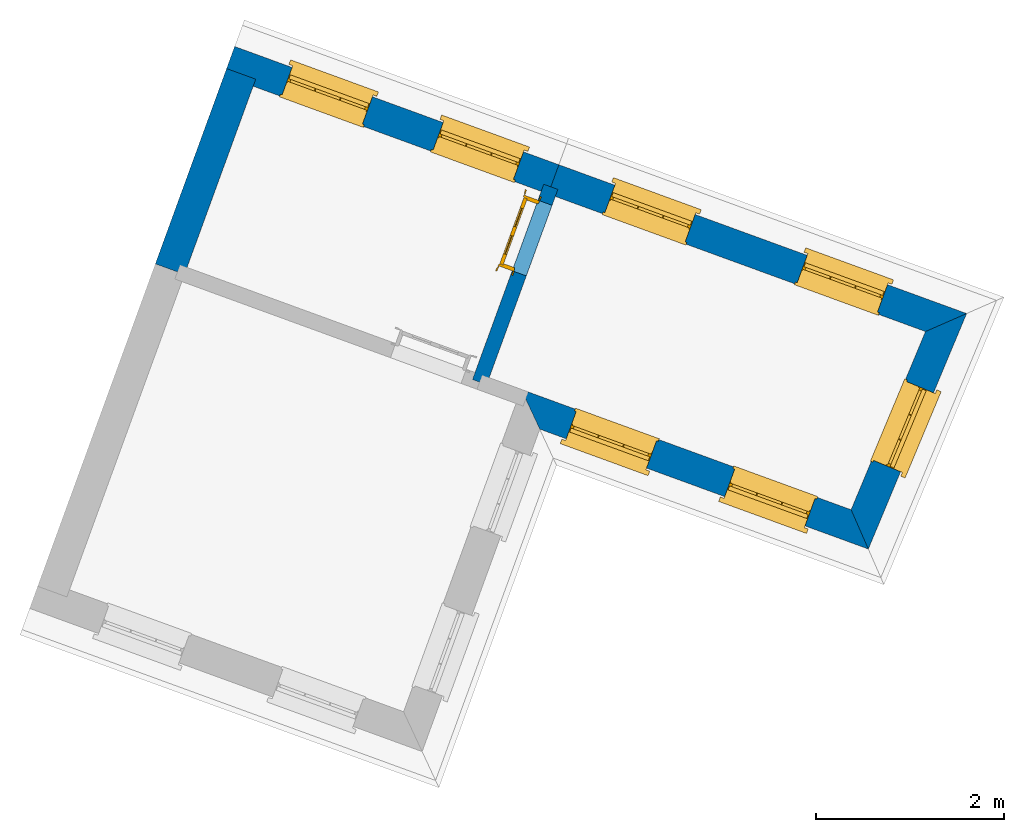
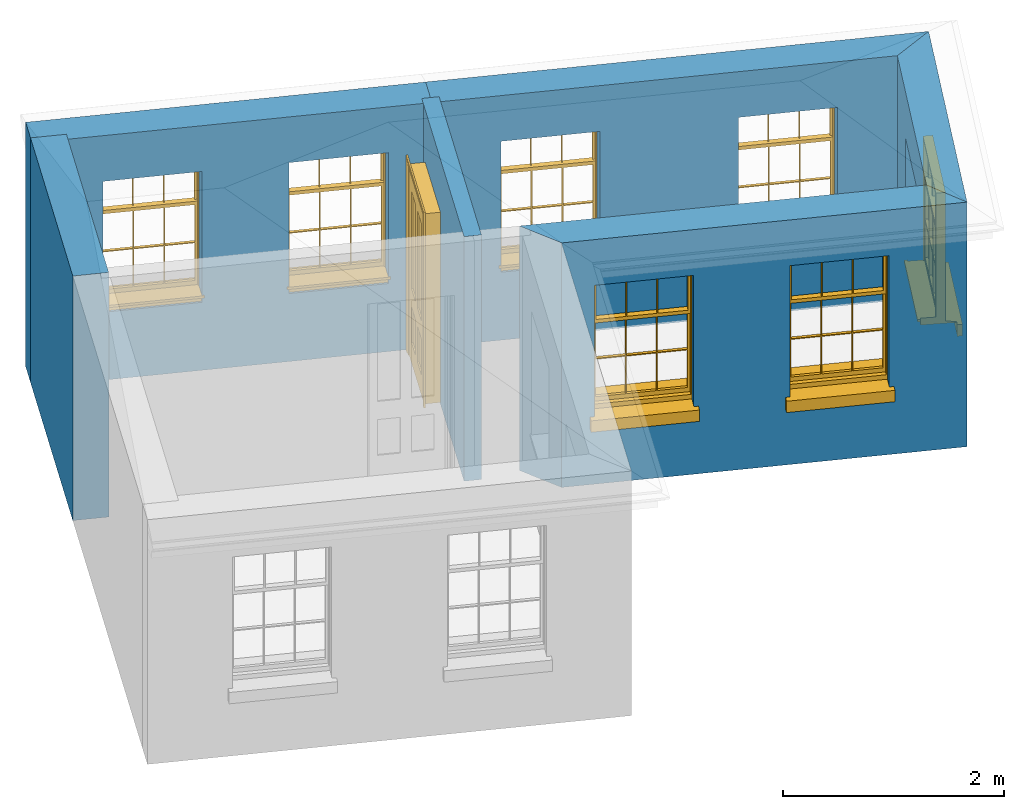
# One storey, part 2 of 3: 7 windows, 6 walls, 1 door, 8 openings.
"""IFC4 building model written with IfcOpenShell, lengths in metres."""

from ifc_helpers import new_model, si_unit, frame, origin, origin_with_axes, place, context, subcontext, project, spatial, polyline, outline, extrude, faceted_brep, source, transform, mapped, material, layer, layer_set, layer_usage, type_object, type_shapes, element, fill, save


model = new_model("IFC4")

# Units and contexts
model_context = context("Model", 3, world=origin_with_axes())
body_context = subcontext(model_context, "Body", "Model", "MODEL_VIEW")
ifc_project = project(units=[si_unit("PLANEANGLEUNIT", "RADIAN"), si_unit("MASSUNIT", "GRAM", prefix="KILO"), si_unit("FORCEUNIT", "NEWTON", prefix="KILO"), si_unit("LENGTHUNIT", "METRE"), si_unit("AREAUNIT", "SQUARE_METRE"), si_unit("VOLUMEUNIT", "CUBIC_METRE")], contexts=[model_context, model_context])

# Sites, building, storey
site_1_placement = place(None, origin_with_axes())
site_1 = spatial("IfcSite", under=ifc_project, at=site_1_placement, Name="Tamar")
site_2_placement = place(site_1_placement, origin_with_axes())
site_2 = spatial("IfcSite", under=site_1, at=site_2_placement, Name="Site plot-13", CompositionType="ELEMENT")
building_placement = place(None, origin_with_axes())
building = spatial("IfcBuilding", under=site_2, at=building_placement, Name="Building plot-13", CompositionType="ELEMENT")
storey_placement = place(None, frame((0.0, 0.0, 31.85), z_axis=(0.0, 0.0, 1.0), x_axis=(1.0, 0.0, 0.0)))
storey = spatial("IfcBuildingStorey", under=building, at=storey_placement, Name="plot-13 2", CompositionType="ELEMENT", Elevation=31.85)

# Wall, openings, windows
ifc_material_1 = material(Name="Masonry")
ifc_layer_1 = layer(ifc_material_1, 0.33, ventilated=False)
ifc_layer_set_1 = layer_set([ifc_layer_1], Name="exterior_0.08_0.25")
ifc_layer_usage_1 = layer_usage(ifc_layer_set_1, "AXIS2", "POSITIVE", -0.25)
wall_type_1 = type_object("IfcWallType", Name="exterior_0.08_0.25", PredefinedType="SOLIDWALL", material=ifc_layer_set_1)
wall_1_placement = place(storey_placement, frame((246.239933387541, 300.742010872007, 0.0), z_axis=(0.0, 0.0, 1.0), x_axis=(0.939432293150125, -0.342734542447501, 0.0)))
wall_1 = element("IfcWall", 1, at=wall_1_placement, inside=storey, type_object=wall_type_1, material=ifc_layer_usage_1, Name="exterior", context=body_context, shape_type="SweptSolid", body=[
    extrude(outline(polyline([(-0.0800000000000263, 0.0799999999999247), (0.249999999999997, -0.250000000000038), (3.97164468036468, -0.249999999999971), (3.65634232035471, 0.0799999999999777), (-0.0800000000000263, 0.0799999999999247)])), origin_with_axes(), (0.0, 0.0, 1.0), 2.7),
])
opening_1_placement = place(wall_1_placement, frame((0.55, 0.0, 0.75)))
opening_1 = element("IfcOpeningElement", 2, at=opening_1_placement, cuts=wall_1, Name="My Opening", ObjectType="Opening", context=body_context, shape_type="SweptSolid", body=[
    extrude(outline(polyline([(0.0, -0.269999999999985), (0.910000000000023, -0.269999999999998), (0.910000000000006, 1.09999999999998), (-1.64313007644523e-14, 1.1), (0.0, -0.269999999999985)])), origin_with_axes(), (0.0, 0.0, 1.0), 1.445),
])
opening_2_placement = place(wall_1_placement, frame((2.34458444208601, 0.0, 0.75)))
opening_2 = element("IfcOpeningElement", 3, at=opening_2_placement, cuts=wall_1, Name="My Opening", ObjectType="Opening", context=body_context, shape_type="SweptSolid", body=[
    extrude(outline(polyline([(0.0, -0.26999999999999), (0.909999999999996, -0.270000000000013), (0.909999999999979, 1.09999999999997), (-1.64313007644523e-14, 1.09999999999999), (0.0, -0.26999999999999)])), origin_with_axes(), (0.0, 0.0, 1.0), 1.445),
])
window_type = type_object("IfcWindowType", Name="sash_shorter", PartitioningType="DOUBLE_PANEL_HORIZONTAL", PredefinedType="NOTDEFINED")
shared_shape_1 = source(origin(), body_context, "Body", "Brep", [
    faceted_brep([(0.876875, 0.145, 0.999097), (0.876875, 0.145, 1.411875), (0.9, 0.145, 1.435), (0.033125, 0.145, 1.411875), (0.033125, 0.145, 0.999097), (0.01, 0.145, 1.435), (0.033125, 0.115, 1.411875), (0.01, 0.115, 1.435), (0.033125, 0.115, 0.999097), (0.876875, 0.115, 1.411875), (0.876875, 0.115, 0.999097), (0.9, 0.115, 1.435), (0.033125, 0.145, 0.960972), (0.01, 0.145, 0.960972), (0.033125, 0.145, 0.548195), (0.876875, 0.145, 0.960972), (0.876875, 0.145, 0.548195), (0.9, 0.145, 0.960972), (0.876875, 0.145, 0.538195), (0.876875, 0.145, 0.125417), (0.9, 0.145, 0.077167), (0.033125, 0.145, 0.125417), (0.033125, 0.145, 0.538195), (0.01, 0.145, 0.077167), (0.9, 0.115, 0.960972), (0.01, 0.115, 0.960972), (-0.0425, 0.0, 0.01), (-0.0425, -0.05, 0.001667), (0.0, 0.0, 0.01), (0.9525, 0.0, 0.01), (0.91, 0.0, 0.01), (0.9525, -0.05, 0.001667), (-0.02, 0.33, 0.077167), (0.0, 0.33, 0.077167), (-0.02, 0.36, 0.077167), (0.0, 0.19, 0.077167), (0.01, 0.19, 0.077167), (0.91, 0.19, 0.077167), (0.91, 0.33, 0.077167), (0.9, 0.19, 0.077167), (0.93, 0.33, 0.077167), (0.93, 0.36, 0.077167), (0.01, 0.145, 0.999097), (0.01, 0.175, 0.999097), (0.9, 0.145, 0.999097), (0.9, 0.175, 0.999097), (0.876875, 0.175, 0.125417), (0.876875, 0.175, 0.538195), (0.9, 0.175, 0.077167), (0.876875, 0.175, 0.548195), (0.876875, 0.175, 0.960972), (0.033125, 0.175, 0.125417), (0.01, 0.175, 0.077167), (0.033125, 0.175, 0.538195), (0.033125, 0.175, 0.960972), (0.033125, 0.175, 0.548195), (-0.02, 0.33, 0.052167), (-0.02, 0.36, 0.052167), (0.93, 0.36, 0.052167), (0.93, 0.33, 0.052167), (0.91, 0.33, 0.052167), (0.0, 0.33, 0.052167), (0.91, 0.1, 0.026667), (0.0, 0.1, 0.026667), (-0.0425, -0.05, -0.123333), (0.9525, -0.05, -0.123333), (-0.0425, 0.0, -0.123333), (0.9525, 0.0, -0.123333), (0.01, 0.19, 1.435), (0.9, 0.19, 1.435), (0.0, 0.19, 1.445), (0.91, 0.19, 1.445), (0.01, 0.1, 0.077167), (0.9, 0.1, 0.077167), (0.592292, 0.145, 0.125417), (0.592292, 0.175, 0.125417), (0.317708, 0.175, 0.125417), (0.317708, 0.145, 0.125417), (0.592292, 0.145, 0.548195), (0.317708, 0.145, 0.548195), (0.317708, 0.145, 0.538195), (0.592292, 0.145, 0.538195), (0.592292, 0.175, 0.548195), (0.317708, 0.175, 0.548195), (0.602292, 0.175, 0.548195), (0.602292, 0.145, 0.548195), (0.317708, 0.175, 0.538195), (0.307708, 0.175, 0.125417), (0.307708, 0.175, 0.538195), (0.602292, 0.175, 0.538195), (0.602292, 0.175, 0.125417), (0.592292, 0.175, 0.538195), (0.307708, 0.175, 0.548195), (0.317708, 0.175, 0.960972), (0.307708, 0.175, 0.960972), (0.602292, 0.175, 0.960972), (0.592292, 0.175, 0.960972), (0.307708, 0.145, 0.538195), (0.307708, 0.145, 0.125417), (0.307708, 0.145, 0.548195), (0.307708, 0.145, 0.960972), (0.592292, 0.145, 0.960972), (0.317708, 0.145, 0.960972), (0.602292, 0.145, 0.960972), (0.602292, 0.145, 0.538195), (0.602292, 0.145, 0.125417), (0.317708, 0.115, 1.411875), (0.307708, 0.115, 1.411875), (0.307708, 0.115, 0.999097), (0.317708, 0.115, 0.999097), (0.602292, 0.115, 1.411875), (0.592292, 0.115, 1.411875), (0.592292, 0.115, 0.999097), (0.602292, 0.115, 0.999097), (0.317708, 0.145, 0.999097), (0.307708, 0.145, 0.999097), (0.307708, 0.145, 1.411875), (0.317708, 0.145, 1.411875), (0.602292, 0.145, 0.999097), (0.592292, 0.145, 0.999097), (0.592292, 0.145, 1.411875), (0.602292, 0.145, 1.411875), (0.91, 0.1, 1.445), (0.9, 0.1, 1.435), (0.01, 0.1, 1.435), (0.0, 0.1, 1.445), (0.91, 0.0, 0.0), (0.0, 0.0, 0.0), (0.91, 0.33, 0.0), (0.0, 0.33, 0.0)], [[[0, 1, 2]], [[3, 4, 5]], [[6, 7, 8]], [[9, 10, 11]], [[12, 13, 14]], [[15, 16, 17]], [[18, 19, 20]], [[21, 22, 23]], [[24, 15, 17]], [[13, 12, 25]], [[26, 27, 28]], [[29, 30, 31]], [[32, 33, 34]], [[35, 36, 33]], [[37, 38, 39]], [[40, 41, 38]], [[42, 4, 43]], [[44, 45, 0]], [[46, 47, 48]], [[49, 50, 45]], [[51, 52, 53]], [[54, 55, 43]], [[38, 33, 36, 39]], [[41, 34, 33, 38]], [[56, 32, 34, 57]], [[57, 34, 41, 58]], [[58, 41, 40, 59]], [[57, 58, 60, 61]], [[52, 48, 39, 36]], [[62, 63, 28, 30]], [[27, 31, 30, 28]], [[27, 64, 65, 31]], [[66, 67, 65, 64]], [[2, 5, 68, 69]], [[68, 70, 71, 69]], [[20, 23, 72, 73]], [[73, 72, 63, 62]], [[74, 75, 76, 77]], [[78, 79, 80, 81]], [[78, 82, 83, 79]], [[16, 49, 84, 85]], [[86, 76, 87, 88]], [[89, 90, 75, 91]], [[92, 88, 53, 55]], [[82, 91, 86, 83]], [[93, 83, 92, 94]], [[95, 84, 82, 96]], [[89, 84, 49, 47]], [[97, 88, 87, 98]], [[22, 53, 88, 97]], [[81, 91, 75, 74]], [[80, 86, 91, 81]], [[77, 76, 86, 80]], [[99, 92, 55, 14]], [[100, 94, 92, 99]], [[101, 96, 82, 78]], [[79, 83, 93, 102]], [[85, 84, 95, 103]], [[104, 89, 47, 18]], [[105, 90, 89, 104]], [[104, 18, 16, 85]], [[80, 97, 98, 77]], [[104, 81, 74, 105]], [[103, 101, 78, 85]], [[99, 14, 22, 97]], [[102, 100, 99, 79]], [[106, 107, 108, 109]], [[110, 111, 112, 113]], [[114, 115, 116, 117]], [[118, 119, 120, 121]], [[107, 116, 115, 108]], [[111, 120, 119, 112]], [[109, 114, 117, 106]], [[113, 118, 121, 110]], [[85, 78, 81, 104]], [[84, 89, 91, 82]], [[83, 86, 88, 92]], [[79, 99, 97, 80]], [[109, 112, 119, 114]], [[102, 93, 96, 101]], [[106, 117, 120, 111]], [[98, 87, 51, 21]], [[6, 3, 116, 107]], [[110, 121, 1, 9]], [[19, 46, 90, 105]], [[26, 66, 64, 27]], [[29, 31, 65, 67]], [[25, 24, 112, 109]], [[11, 7, 106, 111]], [[75, 48, 52, 76]], [[43, 45, 96, 93]], [[45, 43, 114, 119]], [[5, 2, 120, 117]], [[24, 25, 102, 101]], [[42, 5, 4]], [[2, 44, 0]], [[49, 45, 48, 47]], [[52, 43, 55, 53]], [[14, 13, 23, 22]], [[20, 17, 16, 18]], [[24, 11, 10]], [[25, 8, 7]], [[8, 4, 3, 6]], [[9, 1, 0, 10]], [[15, 50, 49, 16]], [[18, 47, 46, 19]], [[21, 51, 53, 22]], [[14, 55, 54, 12]], [[44, 2, 69, 45]], [[68, 5, 42, 43]], [[36, 35, 70, 68]], [[39, 69, 71, 37]], [[62, 122, 123, 73]], [[63, 72, 124, 125]], [[8, 108, 115, 4]], [[113, 10, 0, 118]], [[94, 100, 12, 54]], [[17, 20, 73, 24]], [[72, 23, 13, 25]], [[52, 36, 68, 43]], [[69, 39, 48, 45]], [[11, 24, 73, 123]], [[7, 124, 72, 25]], [[23, 77, 98]], [[98, 21, 23]], [[105, 74, 20]], [[20, 19, 105]], [[20, 74, 77, 23]], [[113, 112, 24]], [[24, 10, 113]], [[25, 109, 108]], [[108, 8, 25]], [[110, 9, 11]], [[11, 111, 110]], [[7, 6, 107]], [[107, 106, 7]], [[5, 117, 116]], [[116, 3, 5]], [[121, 120, 2]], [[2, 1, 121]], [[11, 123, 124, 7]], [[122, 125, 124, 123]], [[43, 93, 94]], [[94, 54, 43]], [[96, 45, 95]], [[50, 95, 45]], [[15, 103, 95, 50]], [[48, 75, 90]], [[90, 46, 48]], [[87, 76, 52]], [[52, 51, 87]], [[103, 15, 24]], [[24, 101, 103]], [[100, 102, 25]], [[25, 12, 100]], [[115, 114, 43]], [[43, 4, 115]], [[118, 0, 45]], [[45, 119, 118]], [[71, 70, 125, 122]], [[70, 35, 63, 125]], [[122, 62, 37, 71]], [[126, 67, 66, 127]], [[60, 58, 59]], [[38, 60, 59, 40]], [[61, 56, 57]], [[32, 56, 61, 33]], [[61, 60, 128, 129]], [[62, 60, 38, 37]], [[126, 128, 60, 62]], [[33, 61, 63, 35]], [[61, 129, 127, 63]], [[128, 126, 127, 129]], [[28, 127, 66, 26]], [[63, 127, 28]], [[29, 67, 126, 30]], [[30, 126, 62]]]),
])
type_shapes(window_type, [shared_shape_1])
window_1_placement = place(storey_placement, frame((246.664082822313, 300.29986015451, 0.75), z_axis=(0.0, 0.0, 1.0), x_axis=(0.85488338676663, -0.311888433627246, 0.0)))
window_1 = element("IfcWindow", 4, at=window_1_placement, inside=storey, type_object=window_type, Name="bedroom outside window", OverallHeight=1.445, OverallWidth=0.91, context=body_context, shape_type="MappedRepresentation", body=[
    mapped(shared_shape_1, transform((0.0, 0.0, 0.0), scale=1.0)),
])
fill(opening_1, window_1)
window_2_placement = place(storey_placement, frame((248.349973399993, 299.684794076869, 0.75), z_axis=(0.0, 0.0, 1.0), x_axis=(0.854883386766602, -0.311888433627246, 0.0)))
window_2 = element("IfcWindow", 5, at=window_2_placement, inside=storey, type_object=window_type, Name="bedroom outside window", OverallHeight=1.445, OverallWidth=0.91, context=body_context, shape_type="MappedRepresentation", body=[
    mapped(shared_shape_1, transform((0.0, 0.0, 0.0), scale=1.0)),
])
fill(opening_2, window_2)

# Wall, opening, window
wall_2_placement = place(storey_placement, frame((249.746626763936, 299.462658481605, 0.0), z_axis=(0.0, 0.0, 1.0), x_axis=(0.385150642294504, 0.922853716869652, 0.0)))
wall_2 = element("IfcWall", 6, at=wall_2_placement, inside=storey, type_object=wall_type_1, material=ifc_layer_usage_1, Name="exterior", context=body_context, shape_type="SweptSolid", body=[
    extrude(outline(polyline([(0.0764369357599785, 0.0799999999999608), (-0.238865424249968, -0.250000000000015), (2.47628927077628, -0.250000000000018), (2.13090650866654, 0.0799999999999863), (0.0764369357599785, 0.0799999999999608)])), origin_with_axes(), (0.0, 0.0, 1.0), 2.7),
])
opening_3_placement = place(wall_2_placement, frame((0.652317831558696, 0.0, 0.75)))
opening_3 = element("IfcOpeningElement", 7, at=opening_3_placement, cuts=wall_2, Name="My Opening", ObjectType="Opening", context=body_context, shape_type="SweptSolid", body=[
    extrude(outline(polyline([(0.0, -0.270000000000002), (0.910000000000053, -0.269999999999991), (0.91000000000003, 1.09999999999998), (-2.28705943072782e-14, 1.09999999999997), (0.0, -0.270000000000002)])), origin_with_axes(), (0.0, 0.0, 1.0), 1.445),
])
window_3_placement = place(storey_placement, frame((250.247037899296, 299.96066174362, 0.75), z_axis=(0.0, 0.0, 1.0), x_axis=(0.350487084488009, 0.839796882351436, 0.0)))
window_3 = element("IfcWindow", 8, at=window_3_placement, inside=storey, type_object=window_type, Name="bedroom outside window", OverallHeight=1.445, OverallWidth=0.91, context=body_context, shape_type="MappedRepresentation", body=[
    mapped(shared_shape_1, transform((0.0, 0.0, 0.0), scale=1.0)),
])
fill(opening_3, window_3)

# Wall, openings, windows
wall_3_placement = place(storey_placement, frame((250.599595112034, 301.506443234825, 0.0), z_axis=(0.0, 0.0, 1.0), x_axis=(-0.939432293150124, 0.342734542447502, 0.0)))
wall_3 = element("IfcWall", 9, at=wall_3_placement, inside=storey, type_object=wall_type_1, material=ifc_layer_usage_1, Name="exterior", context=body_context, shape_type="SweptSolid", body=[
    extrude(outline(polyline([(0.0837291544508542, 0.0800000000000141), (-0.261653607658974, -0.249999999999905), (4.35646628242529, -0.249999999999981), (4.35646628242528, 0.0799999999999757), (0.0837291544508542, 0.0800000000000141)])), origin_with_axes(), (0.0, 0.0, 1.0), 2.7),
])
opening_4_placement = place(wall_3_placement, frame((0.634116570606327, 0.0, 0.75)))
opening_4 = element("IfcOpeningElement", 10, at=opening_4_placement, cuts=wall_3, Name="My Opening", ObjectType="Opening", context=body_context, shape_type="SweptSolid", body=[
    extrude(outline(polyline([(0.0, -0.269999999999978), (0.909999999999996, -0.27), (0.909999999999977, 1.09999999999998), (-1.82076576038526e-14, 1.1), (0.0, -0.269999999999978)])), origin_with_axes(), (0.0, 0.0, 1.0), 1.445),
])
opening_5_placement = place(wall_3_placement, frame((2.812349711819, 0.0, 0.75)))
opening_5 = element("IfcOpeningElement", 11, at=opening_5_placement, cuts=wall_3, Name="My Opening", ObjectType="Opening", context=body_context, shape_type="SweptSolid", body=[
    extrude(outline(polyline([(0.0, -0.27), (0.909999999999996, -0.270000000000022), (0.909999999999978, 1.09999999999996), (-1.77635683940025e-14, 1.09999999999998), (0.0, -0.27)])), origin_with_axes(), (0.0, 0.0, 1.0), 1.445),
])
window_4_placement = place(storey_placement, frame((250.096423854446, 301.977423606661, 0.75), z_axis=(0.0, 0.0, 1.0), x_axis=(-0.854883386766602, 0.311888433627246, 0.0)))
window_4 = element("IfcWindow", 12, at=window_4_placement, inside=storey, type_object=window_type, Name="bedroom outside window", OverallHeight=1.445, OverallWidth=0.91, context=body_context, shape_type="MappedRepresentation", body=[
    mapped(shared_shape_1, transform((0.0, 0.0, 0.0), scale=1.0)),
])
fill(opening_4, window_4)
window_5_placement = place(storey_placement, frame((248.050121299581, 302.723979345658, 0.75), z_axis=(0.0, 0.0, 1.0), x_axis=(-0.854883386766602, 0.311888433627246, 0.0)))
window_5 = element("IfcWindow", 13, at=window_5_placement, inside=storey, type_object=window_type, Name="bedroom outside window", OverallHeight=1.445, OverallWidth=0.91, context=body_context, shape_type="MappedRepresentation", body=[
    mapped(shared_shape_1, transform((0.0, 0.0, 0.0), scale=1.0)),
])
fill(opening_5, window_5)

wall_4_placement = place(storey_placement, frame((246.506990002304, 302.99955471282, 0.0), z_axis=(0.0, 0.0, 1.0), x_axis=(-0.939432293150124, 0.342734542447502, 0.0)))
wall_4 = element("IfcWall", 14, at=wall_4_placement, inside=storey, type_object=wall_type_1, material=ifc_layer_usage_1, Name="exterior", context=body_context, shape_type="SweptSolid", body=[
    extrude(outline(polyline([(-6.1057689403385e-15, 0.0799999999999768), (-3.03780523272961e-15, -0.249999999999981), (3.67192076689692, -0.249999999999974), (3.67192076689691, 0.0799999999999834), (-6.1057689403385e-15, 0.0799999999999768)])), origin_with_axes(), (0.0, 0.0, 1.0), 2.7),
])
opening_6_placement = place(wall_4_placement, frame((0.400480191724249, 0.0, 0.75)))
opening_6 = element("IfcOpeningElement", 15, at=opening_6_placement, cuts=wall_4, Name="My Opening", ObjectType="Opening", context=body_context, shape_type="SweptSolid", body=[
    extrude(outline(polyline([(0.0, -0.270000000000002), (0.909999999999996, -0.270000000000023), (0.910000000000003, 1.09999999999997), (7.82707232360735e-15, 1.09999999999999), (0.0, -0.270000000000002)])), origin_with_axes(), (0.0, 0.0, 1.0), 1.445),
])
opening_7_placement = place(wall_4_placement, frame((2.11144057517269, 0.0, 0.75)))
opening_7 = element("IfcOpeningElement", 16, at=opening_7_placement, cuts=wall_4, Name="My Opening", ObjectType="Opening", context=body_context, shape_type="SweptSolid", body=[
    extrude(outline(polyline([(0.0, -0.269999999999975), (0.909999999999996, -0.269999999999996), (0.910000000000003, 1.1), (7.54951656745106e-15, 1.10000000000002), (0.0, -0.269999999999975)])), origin_with_axes(), (0.0, 0.0, 1.0), 1.445),
])
window_6_placement = place(storey_placement, frame((246.223304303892, 303.39045982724, 0.75), z_axis=(0.0, 0.0, 1.0), x_axis=(-0.854883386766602, 0.311888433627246, 0.0)))
window_6 = element("IfcWindow", 17, at=window_6_placement, inside=storey, type_object=window_type, Name="circulation outside window", OverallHeight=1.445, OverallWidth=0.91, context=body_context, shape_type="MappedRepresentation", body=[
    mapped(shared_shape_1, transform((0.0, 0.0, 0.0), scale=1.0)),
])
fill(opening_6, window_6)
window_7_placement = place(storey_placement, frame((244.61597286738, 303.976865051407, 0.75), z_axis=(0.0, 0.0, 1.0), x_axis=(-0.854883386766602, 0.311888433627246, 0.0)))
window_7 = element("IfcWindow", 18, at=window_7_placement, inside=storey, type_object=window_type, Name="circulation outside window", OverallHeight=1.445, OverallWidth=0.91, context=body_context, shape_type="MappedRepresentation", body=[
    mapped(shared_shape_1, transform((0.0, 0.0, 0.0), scale=1.0)),
])
fill(opening_7, window_7)

# Wall
ifc_material_2 = material(Name="Masonry")
ifc_layer_2 = layer(ifc_material_2, 0.33, ventilated=False)
ifc_layer_set_2 = layer_set([ifc_layer_2], Name="party_0.08_0.25")
ifc_layer_usage_2 = layer_usage(ifc_layer_set_2, "AXIS2", "POSITIVE", -0.25)
wall_type_2 = type_object("IfcWallType", Name="party_0.08_0.25", PredefinedType="SOLIDWALL", material=ifc_layer_set_2)
wall_5_placement = place(storey_placement, frame((243.29232712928, 304.172365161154, 0.0), z_axis=(0.0, 0.0, 1.0), x_axis=(-0.342734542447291, -0.939432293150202, 0.0)))
element("IfcWall", 19, at=wall_5_placement, inside=storey, type_object=wall_type_2, material=ifc_layer_usage_2, Name="party", context=body_context, shape_type="SweptSolid", body=[
    extrude(outline(polyline([(-2.44573658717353e-14, 0.0799999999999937), (3.67904406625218e-15, -0.249999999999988), (2.21233911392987, -0.249999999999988), (2.21233911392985, 0.079999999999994), (-2.44573658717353e-14, 0.0799999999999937)])), origin_with_axes(), (0.0, 0.0, 1.0), 2.7),
])

# Wall, opening, door
ifc_material_3 = material(Name="Masonry")
ifc_layer_3 = layer(ifc_material_3, 0.16, ventilated=False)
ifc_layer_set_3 = layer_set([ifc_layer_3], Name="interior_0.08_0.08")
ifc_layer_usage_3 = layer_usage(ifc_layer_set_3, "AXIS2", "POSITIVE", -0.08)
wall_type_3 = type_object("IfcWallType", Name="interior_0.08_0.08", PredefinedType="SOLIDWALL", material=ifc_layer_set_3)
wall_6_placement = place(storey_placement, frame((245.748744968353, 300.921211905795, 0.0), z_axis=(0.0, 0.0, 1.0), x_axis=(0.342734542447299, 0.939432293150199, 0.0)))
wall_6 = element("IfcWall", 20, at=wall_6_placement, inside=storey, type_object=wall_type_3, material=ifc_layer_usage_3, Name="interior", context=body_context, shape_type="SweptSolid", body=[
    extrude(outline(polyline([(-2.5183841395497e-14, 0.0799999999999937), (2.51936385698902e-14, -0.0799999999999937), (2.21233911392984, -0.0799999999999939), (2.21233911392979, 0.0799999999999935), (-2.5183841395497e-14, 0.0799999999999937)])), origin_with_axes(), (0.0, 0.0, 1.0), 2.7),
])
opening_8_placement = place(wall_6_placement, frame((1.23233911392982, 0.0, 0.0199999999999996)))
opening_8 = element("IfcOpeningElement", 21, at=opening_8_placement, cuts=wall_6, Name="My Opening", ObjectType="Opening", context=body_context, shape_type="SweptSolid", body=[
    extrude(outline(polyline([(0.0, -0.0999999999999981), (0.799999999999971, -0.100000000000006), (0.799999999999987, 1.09999999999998), (1.55431223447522e-14, 1.09999999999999), (0.0, -0.0999999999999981)])), origin_with_axes(), (0.0, 0.0, 1.0), 2.1),
])
door_type = type_object("IfcDoorType", Name="door_inside", OperationType="SINGLE_SWING_LEFT", PredefinedType="NOTDEFINED")
shared_shape_2 = source(origin(), body_context, "Body", "Brep", [
    faceted_brep([(0.773, 0.33, 1.895), (0.66, 0.33, 1.895), (0.66, 0.33, 2.073), (0.773, 0.33, 2.073), (0.773, 0.33, 0.82), (0.66, 0.33, 0.82), (0.45, 0.33, 1.895), (0.45, 0.33, 2.073), (0.773, 0.33, 0.62), (0.66, 0.33, 0.62), (0.66, 0.315, 0.82), (0.66, 0.315, 1.895), (0.45, 0.315, 1.895), (0.35, 0.33, 1.895), (0.35, 0.33, 2.073), (0.773, 0.33, 0.225), (0.66, 0.33, 0.225), (0.45, 0.33, 0.62), (0.45, 0.33, 0.82), (0.45, 0.315, 0.82), (0.35, 0.33, 0.82), (0.14, 0.33, 2.073), (0.14, 0.33, 1.895), (0.773, 0.33, 0.0), (0.66, 0.33, 0.0), (0.66, 0.315, 0.225), (0.66, 0.315, 0.62), (0.45, 0.315, 0.62), (0.35, 0.33, 0.62), (0.35, 0.315, 0.82), (0.35, 0.315, 1.895), (0.14, 0.315, 1.895), (0.027, 0.33, 2.073), (0.027, 0.33, 1.895), (0.773, 0.292, 0.0), (0.66, 0.292, 0.0), (0.45, 0.33, 0.0), (0.45, 0.33, 0.225), (0.45, 0.315, 0.225), (0.35, 0.33, 0.225), (0.14, 0.33, 0.82), (0.14, 0.33, 0.62), (0.14, 0.315, 0.82), (0.027, 0.33, 0.82), (0.773, 0.292, 0.225), (0.66, 0.292, 0.225), (0.45, 0.292, 0.0), (0.35, 0.33, 0.0), (0.35, 0.315, 0.225), (0.35, 0.315, 0.62), (0.14, 0.315, 0.62), (0.027, 0.33, 0.62), (0.773, 0.292, 0.62), (0.66, 0.292, 0.62), (0.45, 0.292, 0.225), (0.35, 0.292, 0.0), (0.14, 0.33, 0.225), (0.14, 0.33, 0.0), (0.14, 0.315, 0.225), (0.027, 0.33, 0.225), (0.773, 0.292, 0.82), (0.66, 0.292, 0.82), (0.66, 0.307, 0.62), (0.66, 0.307, 0.225), (0.45, 0.307, 0.225), (0.35, 0.292, 0.225), (0.14, 0.292, 0.0), (0.027, 0.33, 0.0), (0.773, 0.292, 1.895), (0.66, 0.292, 1.895), (0.45, 0.292, 0.62), (0.45, 0.292, 0.82), (0.45, 0.307, 0.62), (0.35, 0.292, 0.62), (0.14, 0.292, 0.225), (0.027, 0.292, 0.0), (0.773, 0.292, 2.073), (0.66, 0.292, 2.073), (0.66, 0.307, 1.895), (0.66, 0.307, 0.82), (0.45, 0.307, 0.82), (0.35, 0.292, 0.82), (0.35, 0.307, 0.62), (0.35, 0.307, 0.225), (0.14, 0.307, 0.225), (0.027, 0.292, 0.225), (0.45, 0.292, 1.895), (0.45, 0.292, 2.073), (0.45, 0.307, 1.895), (0.35, 0.292, 1.895), (0.14, 0.292, 0.82), (0.14, 0.292, 0.62), (0.14, 0.307, 0.62), (0.027, 0.292, 0.62), (0.35, 0.292, 2.073), (0.35, 0.307, 1.895), (0.35, 0.307, 0.82), (0.14, 0.307, 0.82), (0.027, 0.292, 0.82), (0.14, 0.292, 2.073), (0.14, 0.292, 1.895), (0.14, 0.307, 1.895), (0.027, 0.292, 1.895), (0.027, 0.292, 2.073), (0.02, 0.335, 0.0), (0.005, 0.34, 0.0), (0.005, 0.34, 2.095), (0.02, 0.335, 2.08), (0.02, 0.33, 0.0), (0.0, 0.335, 0.0), (0.0, 0.335, 2.1), (0.795, 0.34, 2.095), (0.78, 0.335, 2.08), (0.02, 0.33, 2.08), (0.0, 0.33, 0.0), (-0.032, 0.345, 0.0), (-0.032, 0.345, 2.132), (0.8, 0.335, 2.1), (0.795, 0.34, 0.0), (0.78, 0.335, 0.0), (0.78, 0.33, 2.08), (0.04, 0.29, 0.0), (0.025, 0.29, 0.0), (0.025, 0.29, 2.075), (0.04, 0.29, 2.06), (-0.04, 0.34, 0.0), (-0.04, 0.34, 2.14), (0.832, 0.345, 2.132), (0.8, 0.335, 0.0), (0.78, 0.33, 0.0), (0.8, 0.33, 0.0), (0.86, 0.33, 0.0), (0.86, 0.33, 2.16), (0.8, 0.33, 2.1), (-0.06, 0.33, 2.16), (0.0, 0.33, 2.1), (-0.06, 0.33, 0.0), (-0.04, 0.345, 0.0), (-0.04, 0.345, 2.14), (0.84, 0.34, 2.14), (0.832, 0.345, 0.0), (0.84, 0.34, 0.0), (0.86, 0.345, 0.0), (0.86, 0.345, 2.16), (-0.06, 0.345, 2.16), (-0.06, 0.345, 0.0), (0.84, 0.345, 0.0), (0.84, 0.345, 2.14), (-0.025, 0.155, 0.0), (-0.025, 0.16, 0.0), (-0.025, 0.16, 2.125), (-0.025, 0.155, 2.125), (-0.017, 0.155, 0.0), (-0.017, 0.155, 2.117), (0.825, 0.16, 2.125), (0.825, 0.155, 2.125), (0.825, 0.155, 0.0), (0.845, 0.155, 0.0), (-0.045, 0.155, 2.145), (-0.045, 0.155, 0.0), (0.845, 0.155, 2.145), (0.015, 0.165, 0.0), (0.015, 0.165, 2.085), (0.817, 0.155, 2.117), (0.825, 0.16, 0.0), (0.845, 0.17, 0.0), (0.845, 0.17, 2.145), (-0.045, 0.17, 2.145), (-0.045, 0.17, 0.0), (0.02, 0.16, 0.0), (0.02, 0.16, 2.08), (0.785, 0.165, 2.085), (0.817, 0.155, 0.0), (0.8, 0.17, 0.0), (0.8, 0.17, 2.1), (0.0, 0.17, 2.1), (0.0, 0.17, 0.0), (0.035, 0.165, 0.0), (0.035, 0.165, 2.065), (0.78, 0.16, 2.08), (0.785, 0.165, 0.0), (0.775, 0.29, 2.075), (0.76, 0.29, 2.06), (0.035, 0.17, 2.065), (0.035, 0.17, 0.0), (0.765, 0.165, 2.065), (0.78, 0.16, 0.0), (0.765, 0.17, 0.0), (0.765, 0.17, 2.065), (0.765, 0.165, 0.0), (0.04, 0.17, 2.06), (0.04, 0.17, 0.0), (0.76, 0.17, 2.06), (0.76, 0.17, 0.0), (0.76, 0.29, 0.0), (0.775, 0.29, 0.0), (0.025, 0.33, 0.0), (0.025, 0.33, 2.075), (0.775, 0.33, 0.0), (0.775, 0.33, 2.075)], [[[0, 1, 2, 3]], [[1, 0, 4, 5]], [[1, 6, 7, 2]], [[8, 9, 5, 4]], [[1, 5, 10, 11]], [[6, 1, 11, 12]], [[6, 13, 14, 7]], [[15, 16, 9, 8]], [[9, 17, 18, 5]], [[5, 18, 19, 10]], [[10, 19, 12, 11]], [[18, 6, 12, 19]], [[18, 20, 13, 6]], [[21, 14, 13, 22]], [[23, 24, 16, 15]], [[9, 16, 25, 26]], [[17, 9, 26, 27]], [[17, 28, 20, 18]], [[13, 20, 29, 30]], [[22, 13, 30, 31]], [[32, 21, 22, 33]], [[34, 35, 24, 23]], [[24, 36, 37, 16]], [[16, 37, 38, 25]], [[25, 38, 27, 26]], [[37, 17, 27, 38]], [[37, 39, 28, 17]], [[40, 20, 28, 41]], [[20, 40, 42, 29]], [[31, 30, 29, 42]], [[40, 22, 31, 42]], [[33, 22, 40, 43]], [[35, 34, 44, 45]], [[35, 46, 36, 24]], [[36, 47, 39, 37]], [[28, 39, 48, 49]], [[41, 28, 49, 50]], [[43, 40, 41, 51]], [[45, 44, 52, 53]], [[46, 35, 45, 54]], [[46, 55, 47, 36]], [[56, 39, 47, 57]], [[39, 56, 58, 48]], [[50, 49, 48, 58]], [[56, 41, 50, 58]], [[51, 41, 56, 59]], [[53, 52, 60, 61]], [[45, 53, 62, 63]], [[54, 45, 63, 64]], [[55, 46, 54, 65]], [[55, 66, 57, 47]], [[59, 56, 57, 67]], [[61, 60, 68, 69]], [[70, 53, 61, 71]], [[53, 70, 72, 62]], [[72, 64, 63, 62]], [[70, 54, 64, 72]], [[65, 54, 70, 73]], [[65, 74, 66, 55]], [[67, 57, 66, 75]], [[69, 68, 76, 77]], [[61, 69, 78, 79]], [[71, 61, 79, 80]], [[73, 70, 71, 81]], [[65, 73, 82, 83]], [[74, 65, 83, 84]], [[74, 85, 75, 66]], [[86, 69, 77, 87]], [[69, 86, 88, 78]], [[88, 80, 79, 78]], [[86, 71, 80, 88]], [[81, 71, 86, 89]], [[73, 81, 90, 91]], [[73, 91, 92, 82]], [[83, 82, 92, 84]], [[91, 74, 84, 92]], [[91, 93, 85, 74]], [[89, 86, 87, 94]], [[81, 89, 95, 96]], [[90, 81, 96, 97]], [[90, 98, 93, 91]], [[94, 99, 100, 89]], [[89, 100, 101, 95]], [[101, 97, 96, 95]], [[100, 90, 97, 101]], [[100, 102, 98, 90]], [[99, 103, 102, 100]], [[32, 103, 99, 21]], [[102, 103, 32, 33]], [[98, 102, 33, 43]], [[21, 99, 94, 14]], [[94, 87, 7, 14]], [[7, 87, 77, 2]], [[76, 3, 2, 77]], [[43, 51, 93, 98]], [[51, 59, 85, 93]], [[67, 75, 85, 59]], [[34, 23, 15, 44]], [[44, 15, 8, 52]], [[52, 8, 4, 60]], [[0, 68, 60, 4]], [[0, 3, 76, 68]], [[104, 105, 106, 107]], [[104, 108, 109, 105]], [[105, 109, 110, 106]], [[107, 106, 111, 112]], [[107, 113, 108, 104]], [[114, 109, 108]], [[109, 115, 116, 110]], [[106, 110, 117, 111]], [[112, 111, 118, 119]], [[113, 107, 112, 120]], [[121, 122, 123, 124]], [[115, 109, 114, 125]], [[115, 125, 126, 116]], [[110, 116, 127, 117]], [[111, 117, 128, 118]], [[118, 128, 129, 119]], [[120, 112, 119, 129]], [[130, 129, 128]], [[130, 131, 132, 133]], [[133, 132, 134, 135]], [[135, 134, 136, 114]], [[136, 125, 114]], [[125, 137, 138, 126]], [[116, 126, 139, 127]], [[117, 127, 140, 128]], [[141, 130, 128, 140]], [[131, 130, 141]], [[131, 142, 143, 132]], [[132, 143, 144, 134]], [[134, 144, 145, 136]], [[137, 125, 136, 145]], [[143, 142, 146]], [[143, 146, 147]], [[137, 145, 144]], [[143, 147, 138]], [[138, 137, 144]], [[143, 138, 144]], [[126, 138, 147, 139]], [[127, 139, 141, 140]], [[142, 131, 141, 146]], [[139, 147, 146, 141]], [[148, 149, 150, 151]], [[149, 152, 153, 150]], [[151, 150, 154, 155]], [[155, 156, 157]], [[158, 159, 148]], [[158, 148, 151]], [[155, 157, 160]], [[158, 151, 155]], [[155, 160, 158]], [[152, 161, 162, 153]], [[150, 153, 163, 154]], [[155, 154, 164, 156]], [[156, 164, 165, 157]], [[157, 165, 166, 160]], [[160, 166, 167, 158]], [[158, 167, 168, 159]], [[161, 169, 170, 162]], [[153, 162, 171, 163]], [[154, 163, 172, 164]], [[165, 164, 173]], [[165, 173, 174, 166]], [[166, 174, 175, 167]], [[167, 175, 176, 168]], [[169, 177, 178, 170]], [[162, 170, 179, 171]], [[163, 171, 180, 172]], [[172, 180, 173, 164]], [[124, 123, 181, 182]], [[183, 178, 177, 184]], [[170, 178, 185, 179]], [[171, 179, 186, 180]], [[187, 173, 180]], [[185, 188, 187, 189]], [[188, 185, 178, 183]], [[179, 185, 189, 186]], [[189, 187, 180, 186]], [[190, 183, 184, 191]], [[192, 188, 183, 190]], [[191, 184, 122, 121]], [[124, 190, 191, 121]], [[193, 187, 188, 192]], [[182, 192, 190, 124]], [[184, 176, 122]], [[194, 195, 187, 193]], [[192, 182, 194, 193]], [[161, 176, 184]], [[114, 108, 122, 176]], [[173, 187, 195]], [[152, 149, 176, 161]], [[169, 161, 184, 177]], [[196, 122, 108]], [[176, 175, 135, 114]], [[173, 195, 129, 130]], [[176, 149, 168]], [[123, 122, 196, 197]], [[196, 108, 113, 197]], [[175, 174, 133, 135]], [[198, 129, 195]], [[133, 174, 173, 130]], [[159, 168, 149, 148]], [[181, 123, 197, 199]], [[197, 113, 120, 199]], [[199, 120, 129, 198]], [[195, 181, 199, 198]], [[195, 194, 182, 181]]]),
])
type_shapes(door_type, [shared_shape_2])
door_placement = place(storey_placement, frame((246.265053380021, 302.044637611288, 0.0199999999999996), z_axis=(0.0, 0.0, 1.0), x_axis=(0.274187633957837, 0.75154583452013, 0.0)))
door = element("IfcDoor", 22, at=door_placement, inside=storey, type_object=door_type, Name="bedroom inside door", OverallHeight=2.1, OverallWidth=0.8, context=body_context, shape_type="MappedRepresentation", body=[
    mapped(shared_shape_2, transform((0.0, 0.0, 0.0), scale=1.0)),
])
fill(opening_8, door)

save(model, "model.ifc")
